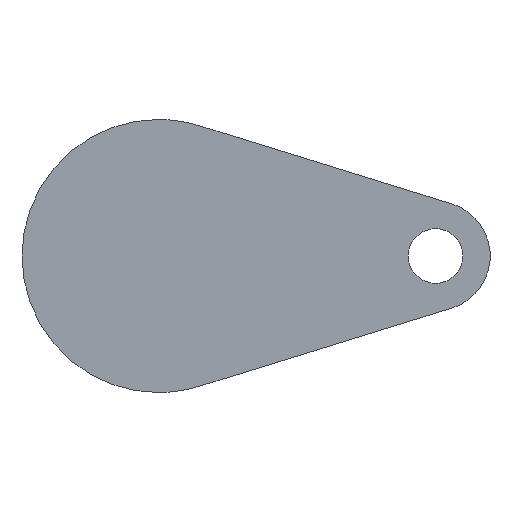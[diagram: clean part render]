
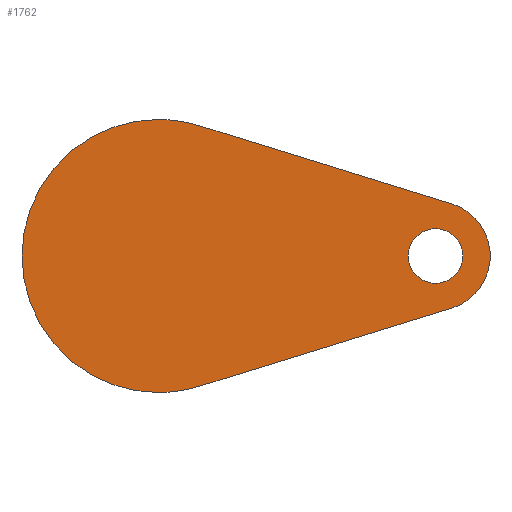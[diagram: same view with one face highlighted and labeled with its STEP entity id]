
A CAD part, front view. The second image highlights one B-rep face of the part: STEP entity #1762.
In plain terms, the highlighted planar face has unit normal (0, -1, 0).
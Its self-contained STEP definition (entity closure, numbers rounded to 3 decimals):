
#51 = EDGE_CURVE ( 'NONE', #1377, #85, #639, .T. ) ;
#64 = DIRECTION ( 'NONE',  ( 0., 1., 0. ) ) ;
#85 = VERTEX_POINT ( 'NONE', #494 ) ;
#138 = DIRECTION ( 'NONE',  ( -0.955, 0., -0.296 ) ) ;
#156 = ORIENTED_EDGE ( 'NONE', *, *, #1329, .F. ) ;
#186 = CARTESIAN_POINT ( 'NONE',  ( 0., 0., 0. ) ) ;
#193 = CARTESIAN_POINT ( 'NONE',  ( 71., 0., 0. ) ) ;
#205 = VERTEX_POINT ( 'NONE', #1678 ) ;
#292 = CIRCLE ( 'NONE', #1826, 7. ) ;
#304 = CARTESIAN_POINT ( 'NONE',  ( 71., 0., 0. ) ) ;
#330 = CARTESIAN_POINT ( 'NONE',  ( 0., 0., 0. ) ) ;
#333 = CARTESIAN_POINT ( 'NONE',  ( 75.141, 0., 13.374 ) ) ;
#343 = DIRECTION ( 'NONE',  ( 0., 1., 0. ) ) ;
#449 = ORIENTED_EDGE ( 'NONE', *, *, #996, .F. ) ;
#480 = EDGE_LOOP ( 'NONE', ( #727, #1090 ) ) ;
#494 = CARTESIAN_POINT ( 'NONE',  ( 0., 0., 35. ) ) ;
#498 = CARTESIAN_POINT ( 'NONE',  ( 10.352, 0., -33.434 ) ) ;
#511 = VERTEX_POINT ( 'NONE', #1190 ) ;
#568 = VERTEX_POINT ( 'NONE', #333 ) ;
#585 = DIRECTION ( 'NONE',  ( 0., 1., 0. ) ) ;
#591 = EDGE_CURVE ( 'NONE', #1036, #1381, #1632, .T. ) ;
#592 = CARTESIAN_POINT ( 'NONE',  ( 71., 0., 0. ) ) ;
#598 = DIRECTION ( 'NONE',  ( 0., 0., 1. ) ) ;
#625 = AXIS2_PLACEMENT_3D ( 'NONE', #744, #64, #1606 ) ;
#639 = CIRCLE ( 'NONE', #1140, 35. ) ;
#648 = EDGE_CURVE ( 'NONE', #568, #205, #1668, .T. ) ;
#678 = VECTOR ( 'NONE', #138, 1000. ) ;
#698 = DIRECTION ( 'NONE',  ( 0.955, 0., -0.296 ) ) ;
#700 = CARTESIAN_POINT ( 'NONE',  ( 10.352, 0., -33.434 ) ) ;
#726 = DIRECTION ( 'NONE',  ( 0., 1., 0. ) ) ;
#727 = ORIENTED_EDGE ( 'NONE', *, *, #591, .T. ) ;
#741 = AXIS2_PLACEMENT_3D ( 'NONE', #1270, #943, #1834 ) ;
#744 = CARTESIAN_POINT ( 'NONE',  ( 0., 0., 0. ) ) ;
#753 = ORIENTED_EDGE ( 'NONE', *, *, #648, .F. ) ;
#761 = ORIENTED_EDGE ( 'NONE', *, *, #1299, .F. ) ;
#831 = AXIS2_PLACEMENT_3D ( 'NONE', #193, #726, #1578 ) ;
#880 = LINE ( 'NONE', #1745, #1545 ) ;
#900 = CARTESIAN_POINT ( 'NONE',  ( 71., 0., -7. ) ) ;
#942 = AXIS2_PLACEMENT_3D ( 'NONE', #186, #343, #1318 ) ;
#943 = DIRECTION ( 'NONE',  ( 0., 1., 0. ) ) ;
#980 = FACE_BOUND ( 'NONE', #480, .T. ) ;
#996 = EDGE_CURVE ( 'NONE', #511, #568, #880, .T. ) ;
#1036 = VERTEX_POINT ( 'NONE', #900 ) ;
#1060 = ORIENTED_EDGE ( 'NONE', *, *, #51, .F. ) ;
#1062 = DIRECTION ( 'NONE',  ( 0., 1., 0. ) ) ;
#1090 = ORIENTED_EDGE ( 'NONE', *, *, #1707, .T. ) ;
#1140 = AXIS2_PLACEMENT_3D ( 'NONE', #330, #1062, #1760 ) ;
#1144 = EDGE_CURVE ( 'NONE', #1506, #1377, #1727, .T. ) ;
#1190 = CARTESIAN_POINT ( 'NONE',  ( 10.352, 0., 33.434 ) ) ;
#1193 = PLANE ( 'NONE',  #942 ) ;
#1204 = DIRECTION ( 'NONE',  ( 0., 0., 1. ) ) ;
#1245 = CIRCLE ( 'NONE', #741, 35. ) ;
#1270 = CARTESIAN_POINT ( 'NONE',  ( 0., 0., 0. ) ) ;
#1271 = LINE ( 'NONE', #700, #678 ) ;
#1278 = CARTESIAN_POINT ( 'NONE',  ( 0., 0., -35. ) ) ;
#1299 = EDGE_CURVE ( 'NONE', #85, #511, #1245, .T. ) ;
#1318 = DIRECTION ( 'NONE',  ( 0., 0., 1. ) ) ;
#1329 = EDGE_CURVE ( 'NONE', #205, #1506, #1271, .T. ) ;
#1377 = VERTEX_POINT ( 'NONE', #1278 ) ;
#1381 = VERTEX_POINT ( 'NONE', #1610 ) ;
#1422 = ORIENTED_EDGE ( 'NONE', *, *, #1144, .F. ) ;
#1423 = DIRECTION ( 'NONE',  ( 0., 1., 0. ) ) ;
#1426 = AXIS2_PLACEMENT_3D ( 'NONE', #592, #1423, #598 ) ;
#1505 = EDGE_LOOP ( 'NONE', ( #1422, #156, #753, #449, #761, #1060 ) ) ;
#1506 = VERTEX_POINT ( 'NONE', #498 ) ;
#1545 = VECTOR ( 'NONE', #698, 1000. ) ;
#1578 = DIRECTION ( 'NONE',  ( 0., 0., 1. ) ) ;
#1606 = DIRECTION ( 'NONE',  ( 0., 0., 1. ) ) ;
#1610 = CARTESIAN_POINT ( 'NONE',  ( 71., 0., 7. ) ) ;
#1632 = CIRCLE ( 'NONE', #1426, 7. ) ;
#1637 = FACE_OUTER_BOUND ( 'NONE', #1505, .T. ) ;
#1668 = CIRCLE ( 'NONE', #831, 14. ) ;
#1678 = CARTESIAN_POINT ( 'NONE',  ( 75.141, 0., -13.374 ) ) ;
#1707 = EDGE_CURVE ( 'NONE', #1381, #1036, #292, .T. ) ;
#1727 = CIRCLE ( 'NONE', #625, 35. ) ;
#1745 = CARTESIAN_POINT ( 'NONE',  ( 10.352, 0., 33.434 ) ) ;
#1760 = DIRECTION ( 'NONE',  ( 0., 0., 1. ) ) ;
#1762 = ADVANCED_FACE ( 'NONE', ( #1637, #980 ), #1193, .F. ) ;
#1826 = AXIS2_PLACEMENT_3D ( 'NONE', #304, #585, #1204 ) ;
#1834 = DIRECTION ( 'NONE',  ( 0., 0., 1. ) ) ;
